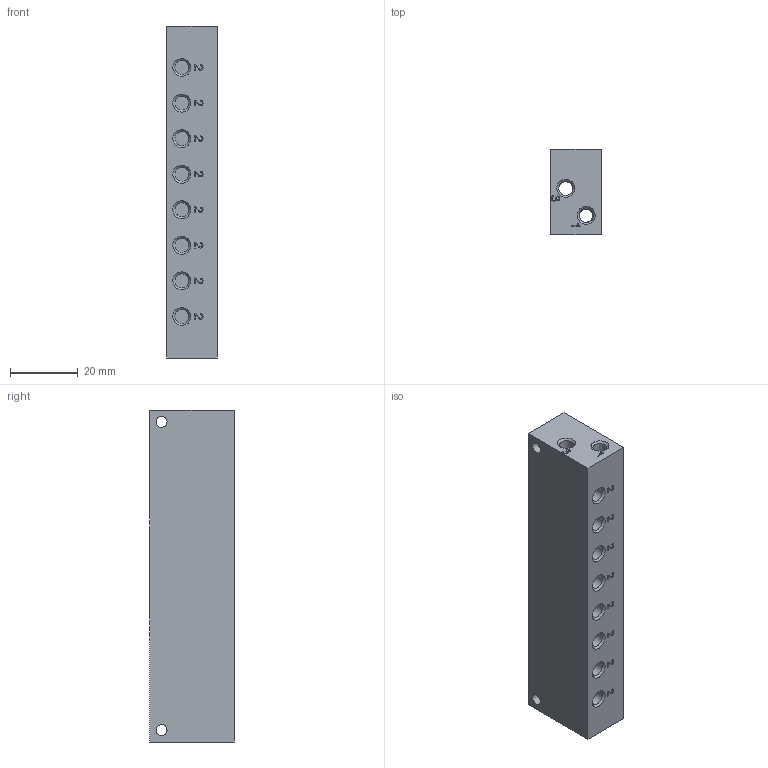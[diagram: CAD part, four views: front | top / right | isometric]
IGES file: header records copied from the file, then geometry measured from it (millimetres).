
Global section: file name: P395_08; native system: Autodesk Inventor 2014; preprocessor: unknown; date: 20160908.083141; units: millimetre
Bounding box: 15 x 25 x 98 mm (x, y, z)
Volume: 32874.4 mm3; surface area: 12260 mm2
Topology: 1 solids, 1 shells, 254 faces, 730 edges, 500 vertices
Faces by surface type: bspline 254
